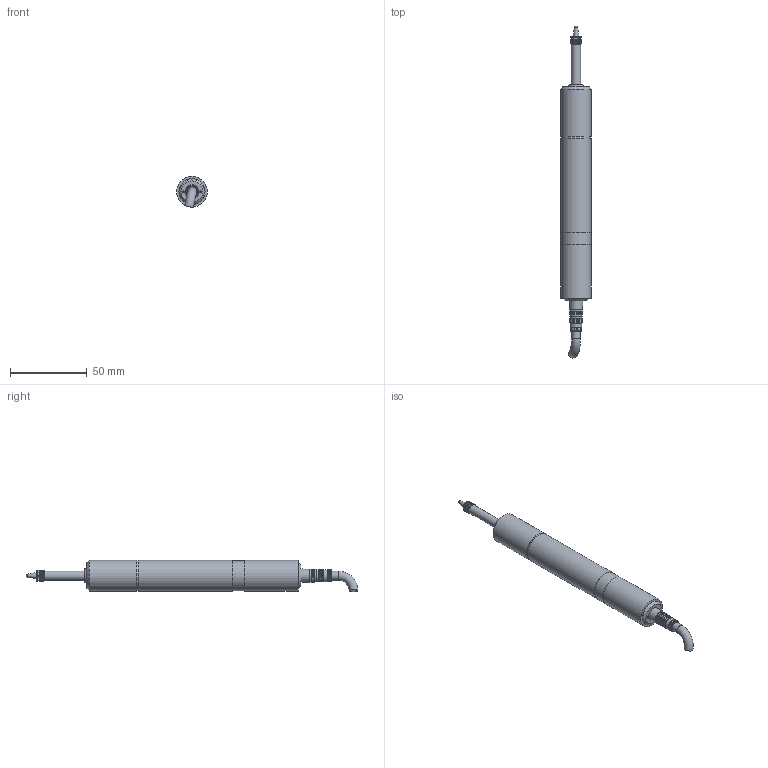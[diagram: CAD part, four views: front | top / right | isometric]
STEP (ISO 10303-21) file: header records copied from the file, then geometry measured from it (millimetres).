
FILE_DESCRIPTION( ( 'STEP AP203' ), '1' );
FILE_NAME( 'N:/Engineering/CAD_Solid/Magnescale/DG-Serie/DK 25 NR5/Kunden 3D/DK 25 NR5 vereinfacht.stp', '2010-08-05T07:43:24', ( ' ' ), ( ' ' ), 'XStep 1.0', ' ', ' ' );
FILE_SCHEMA( ( 'CONFIG_CONTROL_DESIGN) ( )' ) );
Length unit declared in the file: metre
Products named in the file (6): 1; 2; 3; 4; 5; 6
Bounding box: 20 x 216.88 x 20.38 mm (x, y, z)
Surface area: 12047.9 mm2 (no closed solid volume)
Topology: 0 solids, 161 shells, 161 faces, 804 edges, 764 vertices
Faces by surface type: plane 81, cylinder 43, cone 35, torus 1, bspline 1
Full cylindrical faces by diameter (mm): 1 x2, 1.5 x2, 5.8 x1, 6 x1, 6.567 x1, 6.667 x1, 6.867 x1, 6.967 x1, 7.067 x1, 7.167 x1, 7.267 x1, 7.367 x1, 7.434 x1, 17 x1, 19.4 x1, 19.7 x1, 20 x3
Entity records: 8151 total; most frequent: CARTESIAN_POINT 2102, DIRECTION 1216, ORIENTED_EDGE 750, EDGE_CURVE 750, VERTEX_POINT 750, AXIS2_PLACEMENT_3D 436, LINE 344, VECTOR 344
